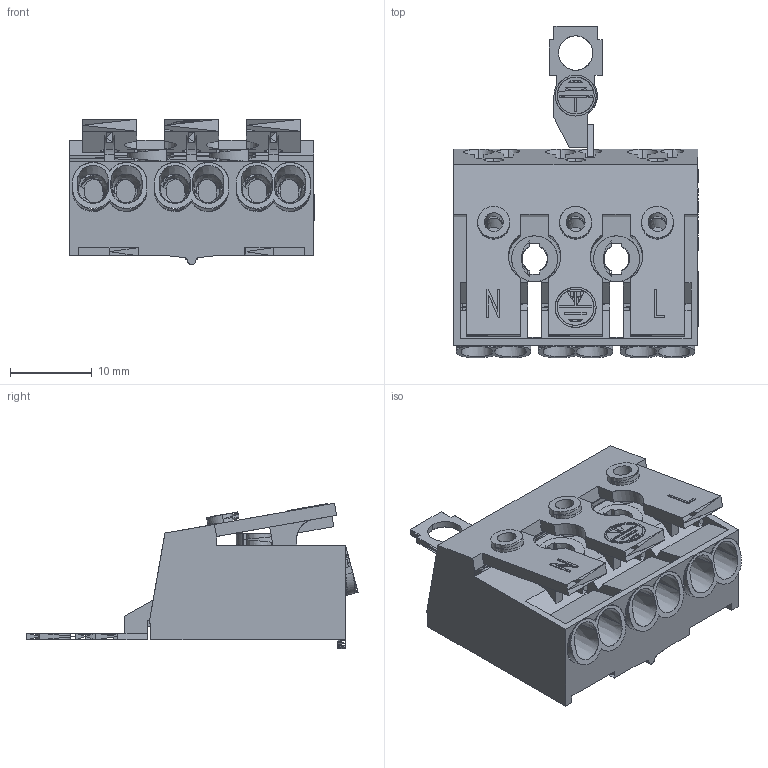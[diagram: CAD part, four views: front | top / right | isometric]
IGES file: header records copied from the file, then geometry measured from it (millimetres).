
Global section: file name: C:\coretechnologie2011\in/002YR0GY04.igs; native system: CT CoreTechnologie 3D Evolution; preprocessor: 2006; author: assmuth; date: 1110528.080355; units: millimetre
Bounding box: 29.9 x 40.55 x 17.78 mm (x, y, z)
Surface area: 5806.2 mm2 (no closed solid volume)
Topology: 0 solids, 0 shells, 536 faces, 2682 edges, 2638 vertices
Faces by surface type: bspline 536
